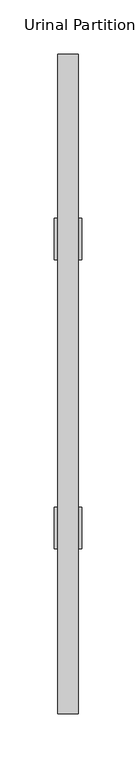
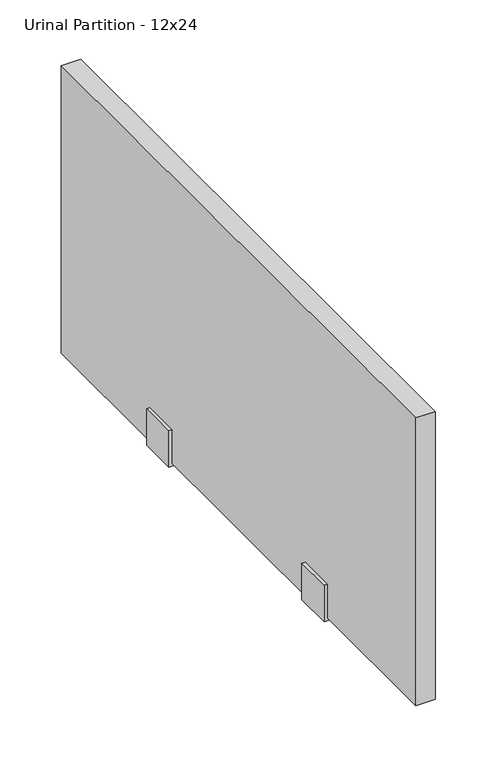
"""IFC4 building model written with IfcOpenShell, lengths in millimetres: proxy geometry, Urinal-Partition_Ironwood-Mfg : Urinal Partition - 12x24."""

from ifc_helpers import new_model, si_unit, frame, origin, place, context, project, spatial, polyline, outline, extrude, source, transform, mapped, element, save


def urinal_partition_12x24_dcd48c62(model_context):
    return source(origin(), model_context, "Body", "SweptSolid", [
        extrude(outline(polyline([(38.1, 9.525), (3.175, 9.525), (3.175, -9.525), (38.1, -9.525), (38.1, -12.7), (0.0, -12.7), (0.0, 12.7), (38.1, 12.7), (38.1, 9.525)])), frame((0.0, 723.9, 0.0), z_axis=(0.0, 1.0, 0.0), x_axis=(0.0, 0.0, 1.0)), (0.0, 0.0, 1.0), 38.1),
        extrude(outline(polyline([(38.1, 9.525), (3.175, 9.525), (3.175, -9.525), (38.1, -9.525), (38.1, -12.7), (0.0, -12.7), (0.0, 12.7), (38.1, 12.7), (38.1, 9.525)])), frame((0.0, 457.2, 0.0), z_axis=(0.0, 1.0, 0.0), x_axis=(0.0, 0.0, 1.0)), (0.0, 0.0, 1.0), 38.1),
        extrude(outline(polyline([(-9.525, 304.8), (-9.525, 913.5614427), (9.525, 913.5614427), (9.525, 304.8), (-9.525, 304.8)])), frame((0.0, 0.0, 3.175), z_axis=(0.0, 0.0, 1.0), x_axis=(1.0, 0.0, 0.0)), (0.0, 0.0, 1.0), 301.625),
    ])


if __name__ == "__main__":
    model = new_model("IFC4")
    model_context = context("Model", 3, world=origin())
    ifc_project = project(units=[si_unit("LENGTHUNIT", "METRE", prefix="MILLI")], contexts=[model_context])
    site = spatial("IfcSite", under=ifc_project)
    building = spatial("IfcBuilding", under=site)
    placement = place(None, origin())
    urinal_partition_12x24_shape = urinal_partition_12x24_dcd48c62(model_context)
    element("IfcBuildingElementProxy", 1, Name="Urinal-Partition_Ironwood-Mfg : Urinal Partition - 12x24", ObjectType="Urinal-Partition_Ironwood-Mfg : Urinal Partition - 12x24", at=placement, inside=building, context=model_context, shape_type="MappedRepresentation", body=[
        mapped(urinal_partition_12x24_shape, transform((0.0, 0.0, 0.0), x_axis=(1.0, 0.0, 0.0), y_axis=(0.0, 1.0, 0.0), z_axis=(0.0, 0.0, 1.0))),
    ])
    save(model, "model.ifc")
